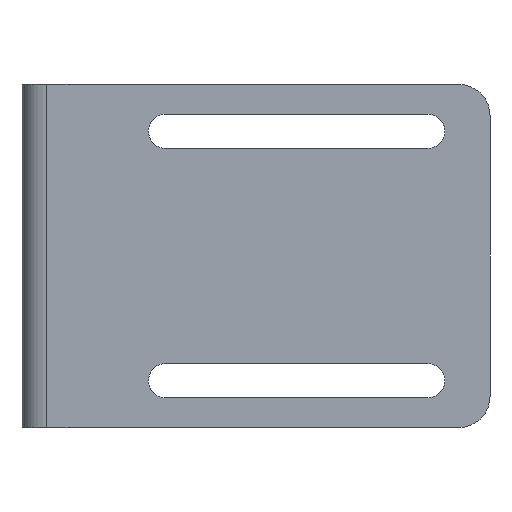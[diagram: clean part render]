
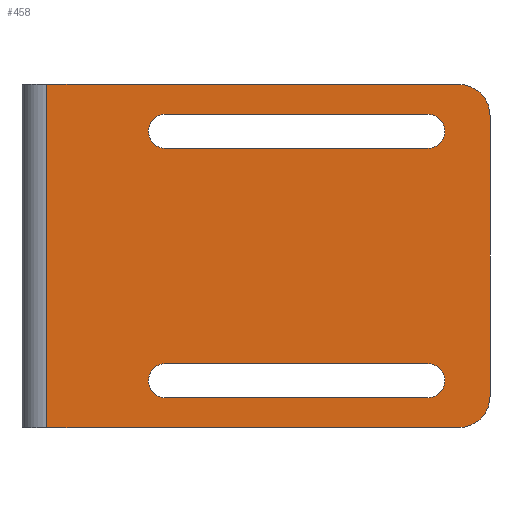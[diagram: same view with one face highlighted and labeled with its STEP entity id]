
A CAD part, front view. The second image highlights one B-rep face of the part: STEP entity #458.
In plain terms, the highlighted planar face has unit normal (0, -1, 0).
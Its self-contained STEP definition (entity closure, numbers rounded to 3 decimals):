
#1 = DIRECTION ( 'NONE',  ( 1., 0., 0. ) ) ;
#8 = VERTEX_POINT ( 'NONE', #109 ) ;
#11 = AXIS2_PLACEMENT_3D ( 'NONE', #133, #54, #295 ) ;
#17 = ORIENTED_EDGE ( 'NONE', *, *, #511, .F. ) ;
#19 = EDGE_CURVE ( 'NONE', #69, #455, #801, .T. ) ;
#21 = AXIS2_PLACEMENT_3D ( 'NONE', #299, #57, #360 ) ;
#36 = EDGE_CURVE ( 'NONE', #548, #268, #304, .T. ) ;
#51 = EDGE_LOOP ( 'NONE', ( #17, #192, #556, #230 ) ) ;
#54 = DIRECTION ( 'NONE',  ( 0., -1., 0. ) ) ;
#57 = DIRECTION ( 'NONE',  ( 0., -1., 0. ) ) ;
#61 = CARTESIAN_POINT ( 'NONE',  ( 65., 0., 17.25 ) ) ;
#62 = VECTOR ( 'NONE', #390, 1000. ) ;
#69 = VERTEX_POINT ( 'NONE', #114 ) ;
#80 = CARTESIAN_POINT ( 'NONE',  ( 23., 0., 17.25 ) ) ;
#85 = VECTOR ( 'NONE', #605, 1000. ) ;
#91 = CARTESIAN_POINT ( 'NONE',  ( 65., 0., 20. ) ) ;
#94 = VERTEX_POINT ( 'NONE', #61 ) ;
#101 = FACE_BOUND ( 'NONE', #51, .T. ) ;
#103 = CIRCLE ( 'NONE', #495, 5. ) ;
#106 = VECTOR ( 'NONE', #735, 1000. ) ;
#108 = EDGE_CURVE ( 'NONE', #94, #548, #128, .T. ) ;
#109 = CARTESIAN_POINT ( 'NONE',  ( 65., 0., -22.75 ) ) ;
#114 = CARTESIAN_POINT ( 'NONE',  ( 65., 0., -17.25 ) ) ;
#126 = CARTESIAN_POINT ( 'NONE',  ( 23., 0., 17.25 ) ) ;
#128 = CIRCLE ( 'NONE', #418, 2.75 ) ;
#133 = CARTESIAN_POINT ( 'NONE',  ( 70., 0., 22.5 ) ) ;
#138 = DIRECTION ( 'NONE',  ( 0., 0., 1. ) ) ;
#153 = VECTOR ( 'NONE', #674, 1000. ) ;
#172 = VERTEX_POINT ( 'NONE', #270 ) ;
#176 = EDGE_CURVE ( 'NONE', #251, #628, #103, .T. ) ;
#182 = DIRECTION ( 'NONE',  ( 0., -1., 0. ) ) ;
#192 = ORIENTED_EDGE ( 'NONE', *, *, #521, .F. ) ;
#202 = EDGE_CURVE ( 'NONE', #609, #94, #258, .T. ) ;
#203 = VERTEX_POINT ( 'NONE', #585 ) ;
#209 = VECTOR ( 'NONE', #412, 1000. ) ;
#216 = LINE ( 'NONE', #717, #209 ) ;
#221 = CARTESIAN_POINT ( 'NONE',  ( 23., 0., -17.25 ) ) ;
#222 = PLANE ( 'NONE',  #386 ) ;
#226 = FACE_OUTER_BOUND ( 'NONE', #611, .T. ) ;
#230 = ORIENTED_EDGE ( 'NONE', *, *, #465, .F. ) ;
#241 = CARTESIAN_POINT ( 'NONE',  ( 70., 0., 27.5 ) ) ;
#242 = CARTESIAN_POINT ( 'NONE',  ( 4., 0., 27.5 ) ) ;
#251 = VERTEX_POINT ( 'NONE', #403 ) ;
#258 = LINE ( 'NONE', #80, #475 ) ;
#260 = CARTESIAN_POINT ( 'NONE',  ( 0., 0., 27.5 ) ) ;
#262 = CARTESIAN_POINT ( 'NONE',  ( 70., 0., -22.5 ) ) ;
#268 = VERTEX_POINT ( 'NONE', #553 ) ;
#270 = CARTESIAN_POINT ( 'NONE',  ( 4., 0., 27.5 ) ) ;
#272 = DIRECTION ( 'NONE',  ( 0., -1., 0. ) ) ;
#278 = AXIS2_PLACEMENT_3D ( 'NONE', #368, #640, #569 ) ;
#281 = EDGE_CURVE ( 'NONE', #347, #251, #416, .T. ) ;
#283 = CARTESIAN_POINT ( 'NONE',  ( 0., 0., -27.5 ) ) ;
#295 = DIRECTION ( 'NONE',  ( 0., 0., 1. ) ) ;
#299 = CARTESIAN_POINT ( 'NONE',  ( 65., 0., -20. ) ) ;
#304 = LINE ( 'NONE', #497, #85 ) ;
#316 = VECTOR ( 'NONE', #1, 1000. ) ;
#335 = ORIENTED_EDGE ( 'NONE', *, *, #688, .F. ) ;
#341 = EDGE_CURVE ( 'NONE', #172, #347, #809, .T. ) ;
#347 = VERTEX_POINT ( 'NONE', #478 ) ;
#360 = DIRECTION ( 'NONE',  ( 0., 0., 1. ) ) ;
#368 = CARTESIAN_POINT ( 'NONE',  ( 23., 0., 20. ) ) ;
#386 = AXIS2_PLACEMENT_3D ( 'NONE', #480, #731, #736 ) ;
#390 = DIRECTION ( 'NONE',  ( 1., 0., 0. ) ) ;
#403 = CARTESIAN_POINT ( 'NONE',  ( 70., 0., -27.5 ) ) ;
#408 = ORIENTED_EDGE ( 'NONE', *, *, #281, .T. ) ;
#412 = DIRECTION ( 'NONE',  ( 0., 0., -1. ) ) ;
#416 = LINE ( 'NONE', #283, #153 ) ;
#418 = AXIS2_PLACEMENT_3D ( 'NONE', #91, #753, #438 ) ;
#432 = CARTESIAN_POINT ( 'NONE',  ( 23., 0., -20. ) ) ;
#433 = ORIENTED_EDGE ( 'NONE', *, *, #202, .F. ) ;
#435 = EDGE_CURVE ( 'NONE', #203, #628, #216, .T. ) ;
#438 = DIRECTION ( 'NONE',  ( 0., 0., 1. ) ) ;
#446 = LINE ( 'NONE', #260, #62 ) ;
#455 = VERTEX_POINT ( 'NONE', #798 ) ;
#458 = ADVANCED_FACE ( 'NONE', ( #794, #101, #226 ), #222, .F. ) ;
#461 = AXIS2_PLACEMENT_3D ( 'NONE', #432, #182, #632 ) ;
#464 = ORIENTED_EDGE ( 'NONE', *, *, #785, .F. ) ;
#465 = EDGE_CURVE ( 'NONE', #8, #69, #469, .T. ) ;
#469 = CIRCLE ( 'NONE', #21, 2.75 ) ;
#475 = VECTOR ( 'NONE', #705, 1000. ) ;
#478 = CARTESIAN_POINT ( 'NONE',  ( 4., 0., -27.5 ) ) ;
#480 = CARTESIAN_POINT ( 'NONE',  ( 0., 0., 27.5 ) ) ;
#490 = LINE ( 'NONE', #740, #316 ) ;
#493 = EDGE_CURVE ( 'NONE', #203, #726, #695, .T. ) ;
#495 = AXIS2_PLACEMENT_3D ( 'NONE', #262, #272, #138 ) ;
#496 = DIRECTION ( 'NONE',  ( 0., 0., -1. ) ) ;
#497 = CARTESIAN_POINT ( 'NONE',  ( 23., 0., 22.75 ) ) ;
#509 = ORIENTED_EDGE ( 'NONE', *, *, #493, .T. ) ;
#511 = EDGE_CURVE ( 'NONE', #589, #8, #490, .T. ) ;
#521 = EDGE_CURVE ( 'NONE', #455, #589, #778, .T. ) ;
#548 = VERTEX_POINT ( 'NONE', #692 ) ;
#553 = CARTESIAN_POINT ( 'NONE',  ( 23., 0., 22.75 ) ) ;
#556 = ORIENTED_EDGE ( 'NONE', *, *, #19, .F. ) ;
#565 = CARTESIAN_POINT ( 'NONE',  ( 23., 0., -22.75 ) ) ;
#569 = DIRECTION ( 'NONE',  ( 0., 0., 1. ) ) ;
#585 = CARTESIAN_POINT ( 'NONE',  ( 75., 0., 22.5 ) ) ;
#589 = VERTEX_POINT ( 'NONE', #565 ) ;
#596 = CIRCLE ( 'NONE', #278, 2.75 ) ;
#605 = DIRECTION ( 'NONE',  ( -1., 0., 0. ) ) ;
#609 = VERTEX_POINT ( 'NONE', #126 ) ;
#611 = EDGE_LOOP ( 'NONE', ( #408, #677, #727, #509, #464, #653 ) ) ;
#628 = VERTEX_POINT ( 'NONE', #629 ) ;
#629 = CARTESIAN_POINT ( 'NONE',  ( 75., 0., -22.5 ) ) ;
#632 = DIRECTION ( 'NONE',  ( 0., 0., 1. ) ) ;
#640 = DIRECTION ( 'NONE',  ( 0., -1., 0. ) ) ;
#653 = ORIENTED_EDGE ( 'NONE', *, *, #341, .T. ) ;
#674 = DIRECTION ( 'NONE',  ( 1., 0., 0. ) ) ;
#677 = ORIENTED_EDGE ( 'NONE', *, *, #176, .T. ) ;
#683 = VECTOR ( 'NONE', #496, 1000. ) ;
#688 = EDGE_CURVE ( 'NONE', #268, #609, #596, .T. ) ;
#692 = CARTESIAN_POINT ( 'NONE',  ( 65., 0., 22.75 ) ) ;
#695 = CIRCLE ( 'NONE', #11, 5. ) ;
#704 = EDGE_LOOP ( 'NONE', ( #433, #335, #762, #793 ) ) ;
#705 = DIRECTION ( 'NONE',  ( 1., 0., 0. ) ) ;
#717 = CARTESIAN_POINT ( 'NONE',  ( 75., 0., 27.5 ) ) ;
#726 = VERTEX_POINT ( 'NONE', #241 ) ;
#727 = ORIENTED_EDGE ( 'NONE', *, *, #435, .F. ) ;
#731 = DIRECTION ( 'NONE',  ( 0., 1., 0. ) ) ;
#735 = DIRECTION ( 'NONE',  ( -1., 0., 0. ) ) ;
#736 = DIRECTION ( 'NONE',  ( 0., 0., 1. ) ) ;
#740 = CARTESIAN_POINT ( 'NONE',  ( 23., 0., -22.75 ) ) ;
#753 = DIRECTION ( 'NONE',  ( 0., -1., 0. ) ) ;
#762 = ORIENTED_EDGE ( 'NONE', *, *, #36, .F. ) ;
#778 = CIRCLE ( 'NONE', #461, 2.75 ) ;
#785 = EDGE_CURVE ( 'NONE', #172, #726, #446, .T. ) ;
#793 = ORIENTED_EDGE ( 'NONE', *, *, #108, .F. ) ;
#794 = FACE_BOUND ( 'NONE', #704, .T. ) ;
#798 = CARTESIAN_POINT ( 'NONE',  ( 23., 0., -17.25 ) ) ;
#801 = LINE ( 'NONE', #221, #106 ) ;
#809 = LINE ( 'NONE', #242, #683 ) ;
